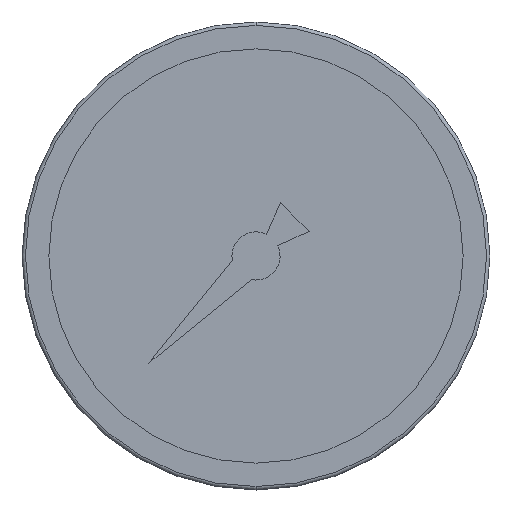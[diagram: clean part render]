
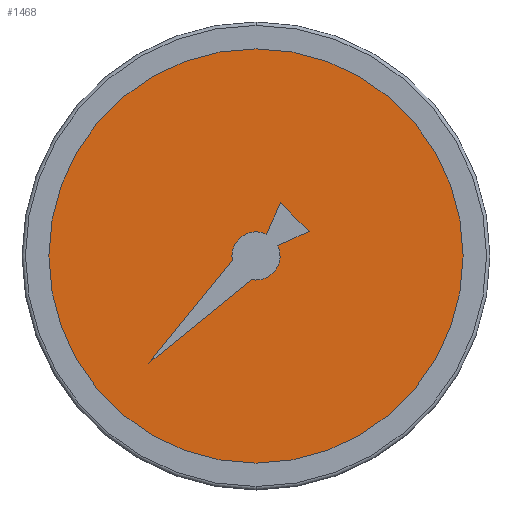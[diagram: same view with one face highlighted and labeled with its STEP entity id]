
A CAD part, top view. The second image highlights one B-rep face of the part: STEP entity #1468.
In plain terms, the highlighted planar face has unit normal (0, 0, 1).
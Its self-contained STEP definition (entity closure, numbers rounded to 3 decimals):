
#551=CARTESIAN_POINT('',(0.,0.,43.5));
#552=DIRECTION('',(0.,0.,1.));
#553=DIRECTION('',(0.,1.,0.));
#554=AXIS2_PLACEMENT_3D('',#551,#552,#553);
#560=CARTESIAN_POINT('',(0.,0.,43.5));
#561=DIRECTION('',(0.,0.,-1.));
#562=DIRECTION('',(0.,1.,0.));
#563=AXIS2_PLACEMENT_3D('',#560,#561,#562);
#569=DIRECTION('',(-0.707,0.707,0.));
#570=VECTOR('',#569,5.824);
#571=CARTESIAN_POINT('',(7.716,3.598,43.5));
#572=LINE('',#571,#570);
#573=DIRECTION('',(-0.423,-0.906,0.));
#574=VECTOR('',#573,5.013);
#575=CARTESIAN_POINT('',(3.598,7.716,43.5));
#576=LINE('',#575,#574);
#577=CARTESIAN_POINT('',(0.,0.,43.5));
#578=DIRECTION('',(0.,0.,1.));
#579=DIRECTION('',(0.423,0.906,0.));
#580=AXIS2_PLACEMENT_3D('',#577,#578,#579);
#582=DIRECTION('',(-0.629,-0.777,0.));
#583=VECTOR('',#582,19.241);
#584=CARTESIAN_POINT('',(-3.448,-0.603,43.5));
#585=LINE('',#584,#583);
#586=DIRECTION('',(0.777,0.629,0.));
#587=VECTOR('',#586,19.241);
#588=CARTESIAN_POINT('',(-15.556,-15.556,43.5));
#589=LINE('',#588,#587);
#590=CARTESIAN_POINT('',(0.,0.,43.5));
#591=DIRECTION('',(0.,0.,1.));
#592=DIRECTION('',(-0.172,-0.985,0.));
#593=AXIS2_PLACEMENT_3D('',#590,#591,#592);
#595=DIRECTION('',(0.906,0.423,0.));
#596=VECTOR('',#595,5.013);
#597=CARTESIAN_POINT('',(3.172,1.479,43.5));
#598=LINE('',#597,#596);
#783=CARTESIAN_POINT('',(0.,30.1,43.5));
#784=CARTESIAN_POINT('',(0.,-30.1,43.5));
#785=VERTEX_POINT('',#783);
#786=VERTEX_POINT('',#784);
#805=CARTESIAN_POINT('',(7.716,3.598,43.5));
#806=CARTESIAN_POINT('',(3.598,7.716,43.5));
#807=VERTEX_POINT('',#805);
#808=VERTEX_POINT('',#806);
#809=CARTESIAN_POINT('',(1.479,3.172,43.5));
#810=VERTEX_POINT('',#809);
#811=CARTESIAN_POINT('',(-3.448,-0.603,43.5));
#812=VERTEX_POINT('',#811);
#813=CARTESIAN_POINT('',(-15.556,-15.556,43.5));
#814=VERTEX_POINT('',#813);
#815=CARTESIAN_POINT('',(-0.603,-3.448,43.5));
#816=VERTEX_POINT('',#815);
#817=CARTESIAN_POINT('',(3.172,1.479,43.5));
#818=VERTEX_POINT('',#817);
#1443=CARTESIAN_POINT('',(0.,0.,43.5));
#1444=DIRECTION('',(0.,0.,1.));
#1445=DIRECTION('',(0.,1.,0.));
#1446=AXIS2_PLACEMENT_3D('',#1443,#1444,#1445);
#1447=PLANE('',#1446);
#1448=ORIENTED_EDGE('',*,*,#1437,.T.);
#1449=ORIENTED_EDGE('',*,*,#1423,.F.);
#1450=EDGE_LOOP('',(#1448,#1449));
#1451=FACE_OUTER_BOUND('',#1450,.F.);
#1453=ORIENTED_EDGE('',*,*,#1452,.T.);
#1455=ORIENTED_EDGE('',*,*,#1454,.T.);
#1457=ORIENTED_EDGE('',*,*,#1456,.T.);
#1459=ORIENTED_EDGE('',*,*,#1458,.T.);
#1461=ORIENTED_EDGE('',*,*,#1460,.T.);
#1463=ORIENTED_EDGE('',*,*,#1462,.T.);
#1465=ORIENTED_EDGE('',*,*,#1464,.T.);
#1466=EDGE_LOOP('',(#1453,#1455,#1457,#1459,#1461,#1463,#1465));
#1467=FACE_BOUND('',#1466,.F.);
#555=CIRCLE('',#554,30.1);
#564=CIRCLE('',#563,30.1);
#581=CIRCLE('',#580,3.5);
#594=CIRCLE('',#593,3.5);
#1423=EDGE_CURVE('',#785,#786,#555,.T.);
#1437=EDGE_CURVE('',#785,#786,#564,.T.);
#1452=EDGE_CURVE('',#807,#808,#572,.T.);
#1454=EDGE_CURVE('',#808,#810,#576,.T.);
#1456=EDGE_CURVE('',#810,#812,#581,.T.);
#1458=EDGE_CURVE('',#812,#814,#585,.T.);
#1460=EDGE_CURVE('',#814,#816,#589,.T.);
#1462=EDGE_CURVE('',#816,#818,#594,.T.);
#1464=EDGE_CURVE('',#818,#807,#598,.T.);
#1468=ADVANCED_FACE('',(#1451,#1467),#1447,.T.);
